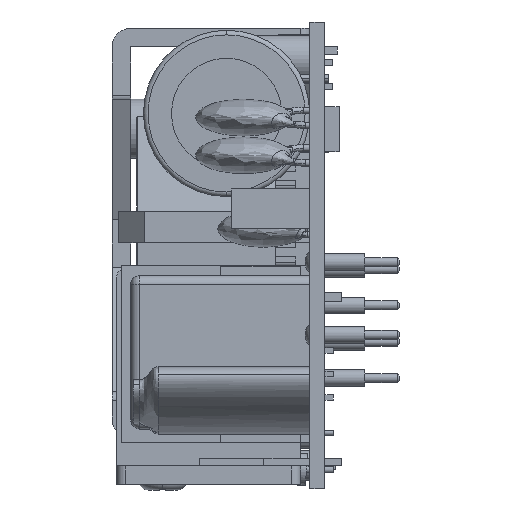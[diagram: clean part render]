
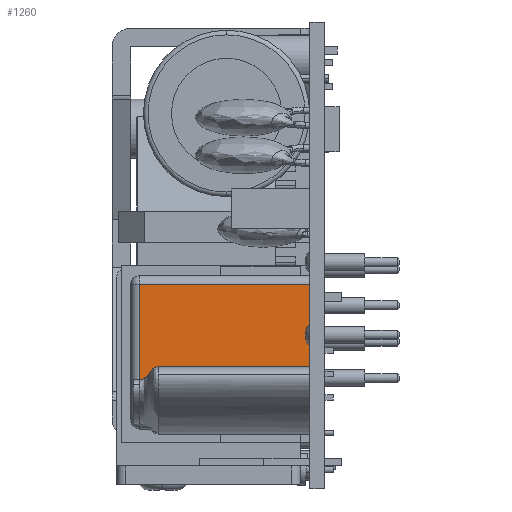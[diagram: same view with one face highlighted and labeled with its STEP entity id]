
A CAD part, left-side view. The second image highlights one B-rep face of the part: STEP entity #1260.
In plain terms, the highlighted planar face has unit normal (-1, 0, 0).
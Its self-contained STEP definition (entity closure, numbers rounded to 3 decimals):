
#639 = VERTEX_POINT ( 'NONE', #23774 ) ;
#641 = EDGE_CURVE ( 'NONE', #642, #639, #23769, .T. ) ;
#642 = VERTEX_POINT ( 'NONE', #23884 ) ;
#1260 = ADVANCED_FACE ( 'NONE', ( #26191 ), #26199, .F. ) ;
#1261 = EDGE_LOOP ( 'NONE', ( #1262, #1266, #1321, #1322 ) ) ;
#1262 = ORIENTED_EDGE ( 'NONE', *, *, #1263, .T. ) ;
#1263 = EDGE_CURVE ( 'NONE', #1264, #1265, #26184, .T. ) ;
#1264 = VERTEX_POINT ( 'NONE', #26168 ) ;
#1265 = VERTEX_POINT ( 'NONE', #26165 ) ;
#1266 = ORIENTED_EDGE ( 'NONE', *, *, #1267, .T. ) ;
#1267 = EDGE_CURVE ( 'NONE', #1265, #642, #26159, .T. ) ;
#1321 = ORIENTED_EDGE ( 'NONE', *, *, #641, .T. ) ;
#1322 = ORIENTED_EDGE ( 'NONE', *, *, #1323, .T. ) ;
#1323 = EDGE_CURVE ( 'NONE', #639, #1264, #26396, .T. ) ;
#23764 = DIRECTION ( 'NONE',  ( 0., 0., 1. ) ) ;
#23766 = VECTOR ( 'NONE', #23764, 1000. ) ;
#23768 = CARTESIAN_POINT ( 'NONE',  ( 13.877, 1.6, -44.286 ) ) ;
#23769 = LINE ( 'NONE', #23768, #23766 ) ;
#23774 = CARTESIAN_POINT ( 'NONE',  ( 13.877, 1.6, -28.586 ) ) ;
#23884 = CARTESIAN_POINT ( 'NONE',  ( 13.877, 1.6, -43.286 ) ) ;
#26154 = DIRECTION ( 'NONE',  ( 0., -1., 0. ) ) ;
#26156 = VECTOR ( 'NONE', #26154, 1000. ) ;
#26158 = CARTESIAN_POINT ( 'NONE',  ( 13.877, 21.1, -43.286 ) ) ;
#26159 = LINE ( 'NONE', #26158, #26156 ) ;
#26165 = CARTESIAN_POINT ( 'NONE',  ( 13.877, 20.1, -43.286 ) ) ;
#26168 = CARTESIAN_POINT ( 'NONE',  ( 13.877, 20.1, -28.586 ) ) ;
#26170 = DIRECTION ( 'NONE',  ( 0., 0., -1. ) ) ;
#26172 = VECTOR ( 'NONE', #26170, 1000. ) ;
#26174 = CARTESIAN_POINT ( 'NONE',  ( 13.877, 20.1, -44.286 ) ) ;
#26179 = DIRECTION ( 'NONE',  ( 0., 0., -1. ) ) ;
#26180 = DIRECTION ( 'NONE',  ( 1., 0., 0. ) ) ;
#26182 = CARTESIAN_POINT ( 'NONE',  ( 13.877, 21.1, -44.286 ) ) ;
#26184 = LINE ( 'NONE', #26174, #26172 ) ;
#26189 = AXIS2_PLACEMENT_3D ( 'NONE', #26182, #26180, #26179 ) ;
#26191 = FACE_OUTER_BOUND ( 'NONE', #1261, .T. ) ;
#26199 = PLANE ( 'NONE',  #26189 ) ;
#26380 = DIRECTION ( 'NONE',  ( 0., 1., 0. ) ) ;
#26382 = VECTOR ( 'NONE', #26380, 1000. ) ;
#26384 = CARTESIAN_POINT ( 'NONE',  ( 13.877, 21.1, -28.586 ) ) ;
#26396 = LINE ( 'NONE', #26384, #26382 ) ;
